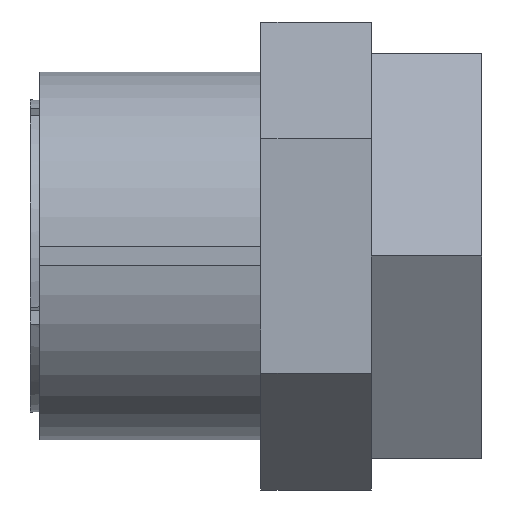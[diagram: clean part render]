
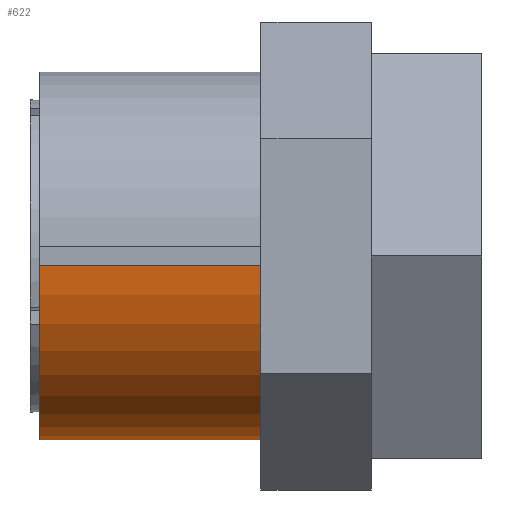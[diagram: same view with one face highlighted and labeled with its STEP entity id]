
A CAD part, front view. The second image highlights one B-rep face of the part: STEP entity #622.
In plain terms, the highlighted cylindrical face has radius 10 mm (diameter 20 mm), a partial arc.
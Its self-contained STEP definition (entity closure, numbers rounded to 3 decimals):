
#45 = AXIS2_PLACEMENT_3D ( 'NONE', #144, #149, #154 ) ;
#95 = AXIS2_PLACEMENT_3D ( 'NONE', #770, #772, #773 ) ;
#102 = AXIS2_PLACEMENT_3D ( 'NONE', #906, #925, #926 ) ;
#144 = CARTESIAN_POINT ( 'NONE',  ( 0., 0., 0. ) ) ;
#149 = DIRECTION ( 'NONE',  ( -1., 0., 0. ) ) ;
#154 = DIRECTION ( 'NONE',  ( 0., 0., 1. ) ) ;
#213 = DIRECTION ( 'NONE',  ( 1., 0., 0. ) ) ;
#217 = CARTESIAN_POINT ( 'NONE',  ( 0., -0.5, -9.987 ) ) ;
#262 = CARTESIAN_POINT ( 'NONE',  ( 0.5, -0.5, -9.987 ) ) ;
#292 = CARTESIAN_POINT ( 'NONE',  ( 12.5, -9.987, -0.5 ) ) ;
#350 = CARTESIAN_POINT ( 'NONE',  ( 12.5, -0.5, -9.987 ) ) ;
#369 = CARTESIAN_POINT ( 'NONE',  ( 0.5, -9.987, -0.5 ) ) ;
#622 = ADVANCED_FACE ( 'NONE', ( #1811 ), #1817, .T. ) ;
#770 = CARTESIAN_POINT ( 'NONE',  ( 12.5, 0., 0. ) ) ;
#772 = DIRECTION ( 'NONE',  ( -1., 0., 0. ) ) ;
#773 = DIRECTION ( 'NONE',  ( 0., 0., 1. ) ) ;
#906 = CARTESIAN_POINT ( 'NONE',  ( 0.5, 0., 0. ) ) ;
#912 = CARTESIAN_POINT ( 'NONE',  ( 0., -9.987, -0.5 ) ) ;
#925 = DIRECTION ( 'NONE',  ( -1., 0., 0. ) ) ;
#926 = DIRECTION ( 'NONE',  ( 0., 0., 1. ) ) ;
#928 = DIRECTION ( 'NONE',  ( -1., 0., 0. ) ) ;
#1080 = VERTEX_POINT ( 'NONE', #369 ) ;
#1096 = VERTEX_POINT ( 'NONE', #350 ) ;
#1139 = VERTEX_POINT ( 'NONE', #292 ) ;
#1163 = VERTEX_POINT ( 'NONE', #262 ) ;
#1453 = ORIENTED_EDGE ( 'NONE', *, *, #2385, .F. ) ;
#1454 = ORIENTED_EDGE ( 'NONE', *, *, #2224, .T. ) ;
#1455 = ORIENTED_EDGE ( 'NONE', *, *, #2315, .T. ) ;
#1456 = ORIENTED_EDGE ( 'NONE', *, *, #2386, .T. ) ;
#1646 = EDGE_LOOP ( 'NONE', ( #1453, #1454, #1455, #1456 ) ) ;
#1811 = FACE_OUTER_BOUND ( 'NONE', #1646, .T. ) ;
#1817 = CYLINDRICAL_SURFACE ( 'NONE', #45, 10. ) ;
#1843 = VECTOR ( 'NONE', #213, 1000. ) ;
#1845 = LINE ( 'NONE', #217, #1843 ) ;
#1981 = CIRCLE ( 'NONE', #95, 10. ) ;
#2106 = VECTOR ( 'NONE', #928, 1000. ) ;
#2111 = LINE ( 'NONE', #912, #2106 ) ;
#2112 = CIRCLE ( 'NONE', #102, 10. ) ;
#2224 = EDGE_CURVE ( 'NONE', #1163, #1096, #1845, .T. ) ;
#2315 = EDGE_CURVE ( 'NONE', #1096, #1139, #1981, .T. ) ;
#2385 = EDGE_CURVE ( 'NONE', #1163, #1080, #2112, .T. ) ;
#2386 = EDGE_CURVE ( 'NONE', #1139, #1080, #2111, .T. ) ;
